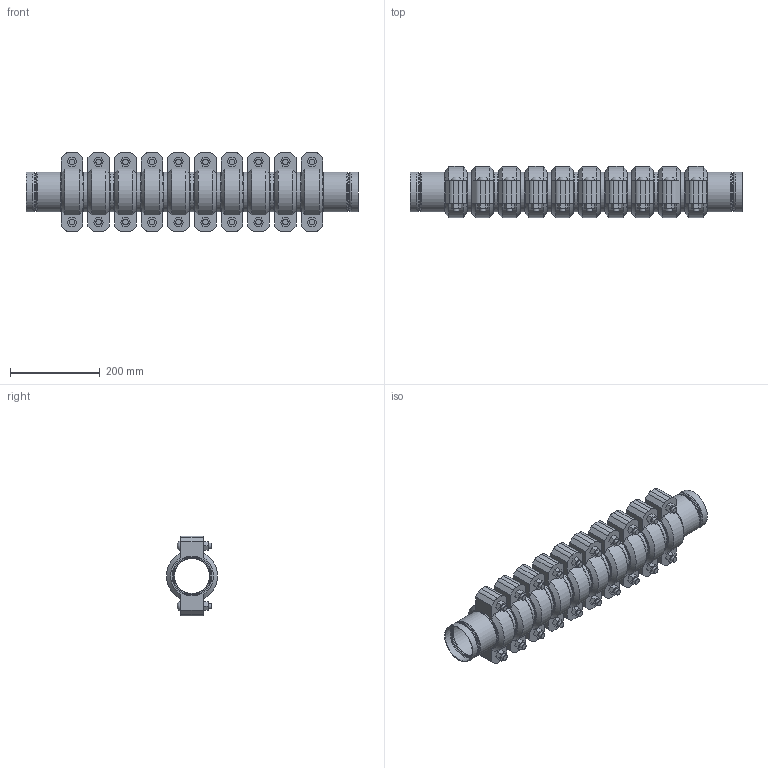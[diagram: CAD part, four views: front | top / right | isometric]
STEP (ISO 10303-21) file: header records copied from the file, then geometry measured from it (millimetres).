
FILE_DESCRIPTION(/* description */ ('VIC STRENGTHIN 100 EXPANSION JOINT 10 COUPLINGS NEUTRAL STYLE E155 (ST1)','CAx-IF Rec.Pracs.---Representation and Presentation of Product Manufacturing Information (PMI)---4.0---2014-10-13'),/* implementation_level */ '2;1');
FILE_NAME(/* name */ 'C:\Users\Vjadhav\AppData\Roaming\Autodesk\ApplicationPlugins\Victaulic.Temp\A165\Victaulic_SS-StrengThin 100_Expansion Joint_Neutral_10 Couplings_Style E155 (ST1)_10 Coup_Neut_3 (80).stp',/* time_stamp */ '2021-07-20T17:39:49+05:00',/* author */ ('kkamble'),/* organization */ ('Victaulic'),/* preprocessor_version */ 'ST-DEVELOPER v17.2',/* originating_system */ 'Autodesk Inventor 2019',/* authorisation */ '');
FILE_SCHEMA (('AP242_MANAGED_MODEL_BASED_3D_ENGINEERING_MIM_LF { 1 0 10303 442 1 1 4 }'));
Length unit declared in the file: inch
Products named in the file (4): E155-03.0; E494G-03.0; Nipple-03.0; 075-03.0
Assembly tree (21 placements, depth 2):
  E155-03.0
    E494G-03.0  x2
    Nipple-03.0  x9
    075-03.0  x10
Bounding box: 741.43 x 113.88 x 177.8 mm (x, y, z)
Volume: 4077209.2 mm3; surface area: 1041176.6 mm2
Topology: 21 solids, 41 shells, 746 faces, 1822 edges, 1282 vertices
Faces by surface type: plane 426, cylinder 224, cone 44, torus 32, bspline 20
Full cylindrical faces by diameter (mm): 12.7 x40, 14.605 x20, 77.927 x9, 79.985 x2, 81.737 x2, 82.55 x10, 83.185 x2, 84.938 x20, 85.7 x6, 88.9 x53
Entity records: 3830 total; most frequent: DIRECTION 685, CARTESIAN_POINT 667, ORIENTED_EDGE 548, AXIS2_PLACEMENT_3D 293, EDGE_CURVE 274, VERTEX_POINT 197, CIRCLE 167, EDGE_LOOP 129
